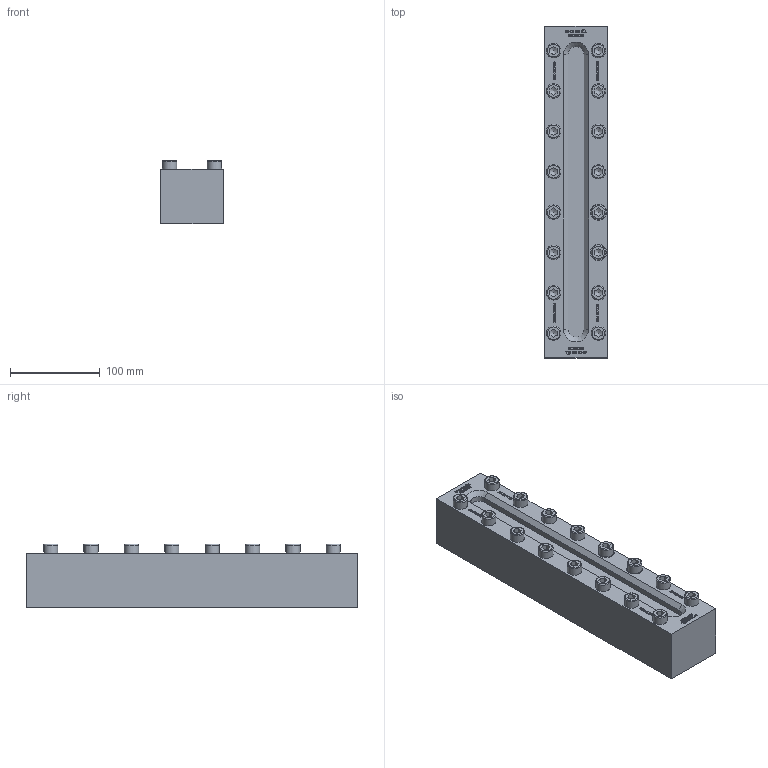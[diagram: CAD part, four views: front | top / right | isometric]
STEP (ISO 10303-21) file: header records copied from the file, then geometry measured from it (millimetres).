
FILE_DESCRIPTION(/* description */ (''),/* implementation_level */ '2;1');
FILE_NAME(/* name */ 'W:\Konstruktion_ACI\330\_Zeichnungen\STEP\ACI-330-370-40.stp',/* time_stamp */ '2022-03-01T17:15:19+01:00',/* author */ ('koslowksi'),/* organization */ (''),/* preprocessor_version */ 'ST-DEVELOPER v16.1',/* originating_system */ 'Autodesk Inventor 2016',/* authorisation */ '');
FILE_SCHEMA (('AUTOMOTIVE_DESIGN { 1 0 10303 214 3 1 1 }'));
Length unit declared in the file: centimetre
Products named in the file (1): ACI-330-370-40.stp
Bounding box: 70 x 370 x 70.9 mm (x, y, z)
Volume: 1419071.8 mm3; surface area: 134453.4 mm2
Topology: 1 solids, 1 shells, 1280 faces, 3446 edges, 2290 vertices
Faces by surface type: plane 922, bspline 302, cylinder 22, cone 18, torus 16
Full cylindrical faces by diameter (mm): 16 x16, 18 x2
Entity records: 41768 total; most frequent: CARTESIAN_POINT 11025, ORIENTED_EDGE 6732, DIRECTION 4686, EDGE_CURVE 3366, LINE 2604, VECTOR 2604, VERTEX_POINT 2260, EDGE_LOOP 1452
